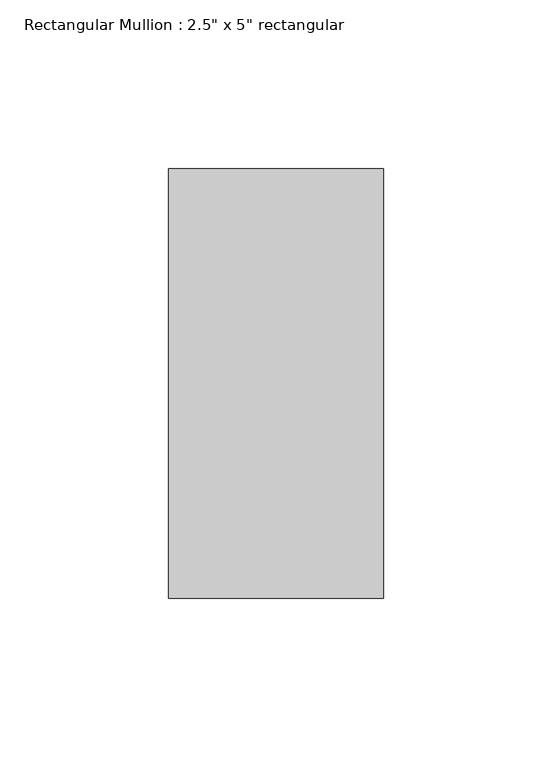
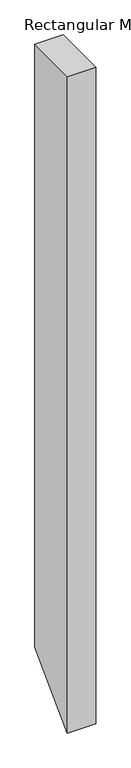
"""IFC4 building model written with IfcOpenShell, lengths in millimetres: member geometry."""

from ifc_helpers import new_model, si_unit, frame, origin, place, context, project, spatial, polyline, outline, extrude, source, transform, mapped, element, save


def member_2d664241(model_context):
    return source(origin(), model_context, "Body", "SweptSolid", [
        extrude(outline(polyline([(-76.2, 0.0), (50.8, 0.0), (50.8, -1437.3678571), (-76.2, -1564.3678571), (-76.2, 0.0)])), frame((-63.5, 0.0, 0.0), z_axis=(1.0, 0.0, 0.0), x_axis=(0.0, 1.0, 0.0)), (0.0, 0.0, 1.0), 63.5),
    ])


if __name__ == "__main__":
    model = new_model("IFC4")
    model_context = context("Model", 3, world=origin())
    ifc_project = project(units=[si_unit("LENGTHUNIT", "METRE", prefix="MILLI")], contexts=[model_context])
    site = spatial("IfcSite", under=ifc_project)
    building = spatial("IfcBuilding", under=site)
    placement = place(None, origin())
    member_shape = member_2d664241(model_context)
    element("IfcMember", 1, ObjectType="Rectangular Mullion : 2.5\" x 5\" rectangular", at=placement, inside=building, context=model_context, shape_type="MappedRepresentation", body=[
        mapped(member_shape, transform((0.0, 0.0, 0.0), x_axis=(1.0, 0.0, 0.0), y_axis=(0.0, 1.0, 0.0), z_axis=(0.0, 0.0, 1.0))),
    ])
    save(model, "model.ifc")
